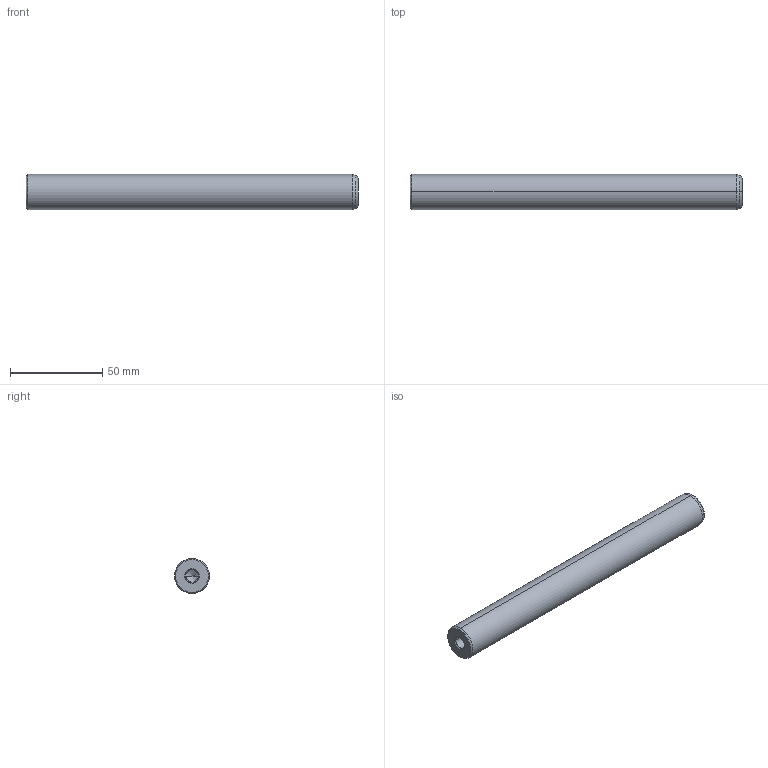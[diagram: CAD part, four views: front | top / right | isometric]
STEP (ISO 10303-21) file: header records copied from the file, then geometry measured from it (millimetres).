
FILE_DESCRIPTION(('CATIA V5 STEP Exchange'),'2;1');
FILE_NAME('C:\Users\Utente\Desktop\IO LAVORO\3D X SITO CF\X SITO\720\720-19x180.stp','2021-01-01T13:06:15+00:00',('none'),('none'),'CATIA Version 5 Release 20 GA (IN-10)','CATIA V5 STEP AP203','none');
FILE_SCHEMA(('CONFIG_CONTROL_DESIGN'));
Length unit declared in the file: millimetre
Products named in the file (1): 720-19x180
Bounding box: 180 x 19 x 19 mm (x, y, z)
Volume: 49204.1 mm3; surface area: 12209.5 mm2
Topology: 1 solids, 1 shells, 22 faces, 56 edges, 34 vertices
Faces by surface type: cone 12, cylinder 6, plane 2, torus 2
Entity records: 755 total; most frequent: CARTESIAN_POINT 216, ORIENTED_EDGE 104, DIRECTION 89, EDGE_CURVE 52, AXIS2_PLACEMENT_3D 50, VERTEX_POINT 34, CIRCLE 27, EDGE_LOOP 24
